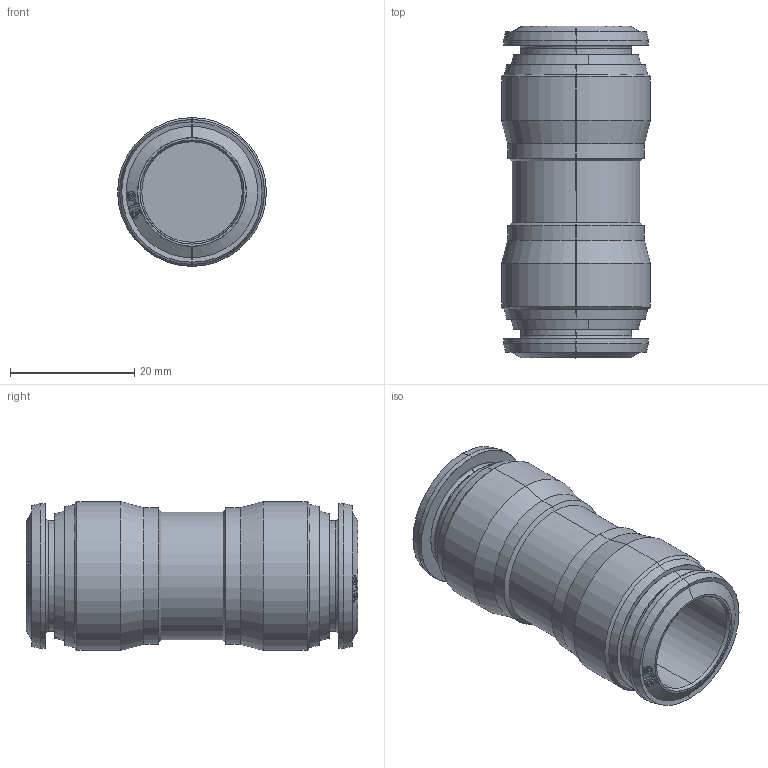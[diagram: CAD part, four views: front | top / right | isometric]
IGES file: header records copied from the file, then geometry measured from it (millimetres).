
Start section: SolidWorks IGES file using analytic representation for surfaces
Global section: file name: \\192.168.0.114\Utecnico\Disegni\Disegni Esecutivi\SERIE 50000\ASSIEMI_50000\50040\IGES e STEP\5004000013A.IGS; native system: SolidWorks 2020; preprocessor: SolidWorks 2020; author: cad06; date: 231102.114007; units: millimetre
Bounding box: 24 x 53.5 x 24 mm (x, y, z)
Surface area: 7522 mm2 (no closed solid volume)
Topology: 0 solids, 0 shells, 130 faces, 1262 edges, 1262 vertices
Faces by surface type: revolution 69, bspline 61
